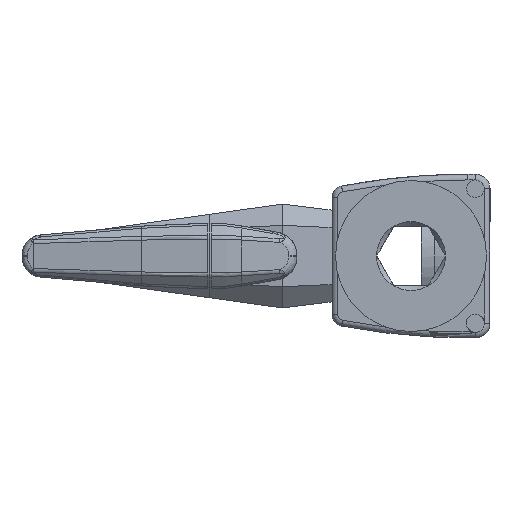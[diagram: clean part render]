
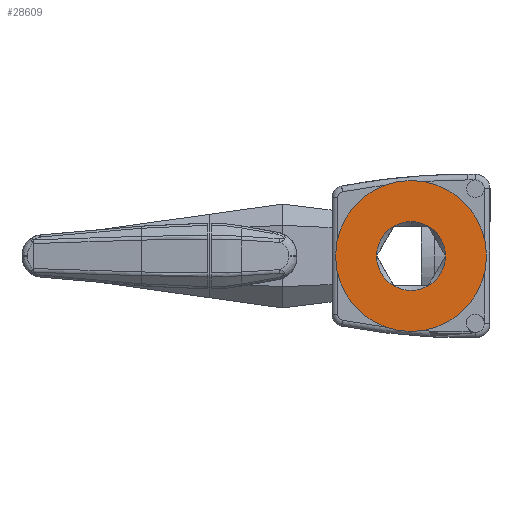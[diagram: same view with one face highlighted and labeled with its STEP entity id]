
A CAD part, left-side view. The second image highlights one B-rep face of the part: STEP entity #28609.
In plain terms, the highlighted planar face has unit normal (-1, 0, 0).
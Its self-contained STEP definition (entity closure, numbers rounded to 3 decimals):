
#621 = DIRECTION ( 'NONE',  ( -1., 0., 0. ) ) ;
#836 = CARTESIAN_POINT ( 'NONE',  ( -77.767, 6.495, 5.956 ) ) ;
#1087 = AXIS2_PLACEMENT_3D ( 'NONE', #26470, #57893, #30940 ) ;
#3408 = CARTESIAN_POINT ( 'NONE',  ( -77.767, 6.495, 5.956 ) ) ;
#4367 = DIRECTION ( 'NONE',  ( -1., 0., 0. ) ) ;
#5326 = DIRECTION ( 'NONE',  ( 0., 0., -1. ) ) ;
#5564 = PLANE ( 'NONE',  #47253 ) ;
#6438 = EDGE_CURVE ( 'NONE', #12897, #48679, #34957, .T. ) ;
#7498 = AXIS2_PLACEMENT_3D ( 'NONE', #836, #32300, #5326 ) ;
#7963 = DIRECTION ( 'NONE',  ( 0., 0., 1. ) ) ;
#8056 = CIRCLE ( 'NONE', #32089, 5.889 ) ;
#8795 = DIRECTION ( 'NONE',  ( -1., 0., 0. ) ) ;
#9505 = CARTESIAN_POINT ( 'NONE',  ( -77.767, 6.495, 5.956 ) ) ;
#9879 = EDGE_CURVE ( 'NONE', #48679, #37748, #8056, .T. ) ;
#10548 = ORIENTED_EDGE ( 'NONE', *, *, #9879, .F. ) ;
#10823 = EDGE_CURVE ( 'NONE', #30576, #17821, #55742, .T. ) ;
#10873 = AXIS2_PLACEMENT_3D ( 'NONE', #27587, #621, #32086 ) ;
#11668 = CIRCLE ( 'NONE', #1087, 5.889 ) ;
#12394 = CIRCLE ( 'NONE', #40187, 5.889 ) ;
#12897 = VERTEX_POINT ( 'NONE', #38668 ) ;
#13133 = DIRECTION ( 'NONE',  ( -1., 0., 0. ) ) ;
#14055 = DIRECTION ( 'NONE',  ( 0., 0., 1. ) ) ;
#14072 = CIRCLE ( 'NONE', #7498, 12.9 ) ;
#14671 = CARTESIAN_POINT ( 'NONE',  ( -77.767, 9.439, 11.056 ) ) ;
#17821 = VERTEX_POINT ( 'NONE', #14671 ) ;
#18101 = DIRECTION ( 'NONE',  ( 1., 0., 0. ) ) ;
#18523 = ORIENTED_EDGE ( 'NONE', *, *, #43294, .F. ) ;
#20516 = EDGE_CURVE ( 'NONE', #51741, #12897, #11668, .T. ) ;
#20701 = ORIENTED_EDGE ( 'NONE', *, *, #47803, .F. ) ;
#21032 = VERTEX_POINT ( 'NONE', #44241 ) ;
#21445 = ORIENTED_EDGE ( 'NONE', *, *, #6438, .F. ) ;
#22656 = CARTESIAN_POINT ( 'NONE',  ( -77.767, 6.495, 11.845 ) ) ;
#23032 = AXIS2_PLACEMENT_3D ( 'NONE', #35736, #8795, #40242 ) ;
#23338 = EDGE_LOOP ( 'NONE', ( #20701, #26989, #34516, #10548, #21445, #34559, #18523 ) ) ;
#23758 = CARTESIAN_POINT ( 'NONE',  ( -77.767, 19.395, 5.956 ) ) ;
#24131 = EDGE_LOOP ( 'NONE', ( #42081, #43861 ) ) ;
#24133 = EDGE_CURVE ( 'NONE', #52453, #21032, #58379, .T. ) ;
#24170 = CARTESIAN_POINT ( 'NONE',  ( -77.767, 3.551, 11.056 ) ) ;
#24289 = AXIS2_PLACEMENT_3D ( 'NONE', #3408, #34888, #7963 ) ;
#26470 = CARTESIAN_POINT ( 'NONE',  ( -77.767, 6.495, 5.956 ) ) ;
#26989 = ORIENTED_EDGE ( 'NONE', *, *, #10823, .F. ) ;
#27587 = CARTESIAN_POINT ( 'NONE',  ( -77.767, 6.495, 5.956 ) ) ;
#27951 = CARTESIAN_POINT ( 'NONE',  ( -77.767, 12.384, 5.956 ) ) ;
#28221 = DIRECTION ( 'NONE',  ( 0., 0., 1. ) ) ;
#28609 = ADVANCED_FACE ( 'NONE', ( #33165, #57108 ), #5564, .T. ) ;
#29768 = CIRCLE ( 'NONE', #24289, 5.889 ) ;
#30576 = VERTEX_POINT ( 'NONE', #22656 ) ;
#30940 = DIRECTION ( 'NONE',  ( 0., 0., 1. ) ) ;
#31361 = CARTESIAN_POINT ( 'NONE',  ( -77.767, 6.495, 5.956 ) ) ;
#32086 = DIRECTION ( 'NONE',  ( 0., 0., 1. ) ) ;
#32089 = AXIS2_PLACEMENT_3D ( 'NONE', #31361, #4367, #35865 ) ;
#32300 = DIRECTION ( 'NONE',  ( 1., 0., 0. ) ) ;
#33165 = FACE_BOUND ( 'NONE', #23338, .T. ) ;
#33706 = EDGE_CURVE ( 'NONE', #21032, #52453, #14072, .T. ) ;
#34509 = EDGE_CURVE ( 'NONE', #37748, #30576, #45524, .T. ) ;
#34516 = ORIENTED_EDGE ( 'NONE', *, *, #34509, .F. ) ;
#34559 = ORIENTED_EDGE ( 'NONE', *, *, #20516, .F. ) ;
#34888 = DIRECTION ( 'NONE',  ( -1., 0., 0. ) ) ;
#34957 = CIRCLE ( 'NONE', #10873, 5.889 ) ;
#35736 = CARTESIAN_POINT ( 'NONE',  ( -77.767, 6.495, 5.956 ) ) ;
#35865 = DIRECTION ( 'NONE',  ( 0., 0., 1. ) ) ;
#36767 = AXIS2_PLACEMENT_3D ( 'NONE', #44989, #18101, #49548 ) ;
#37748 = VERTEX_POINT ( 'NONE', #24170 ) ;
#38668 = CARTESIAN_POINT ( 'NONE',  ( -77.767, 3.551, 0.856 ) ) ;
#39690 = CARTESIAN_POINT ( 'NONE',  ( -77.767, 0.606, 5.956 ) ) ;
#40036 = CARTESIAN_POINT ( 'NONE',  ( -77.767, 6.495, 5.956 ) ) ;
#40187 = AXIS2_PLACEMENT_3D ( 'NONE', #9505, #40956, #14055 ) ;
#40242 = DIRECTION ( 'NONE',  ( 0., 0., 1. ) ) ;
#40956 = DIRECTION ( 'NONE',  ( -1., 0., 0. ) ) ;
#42080 = CARTESIAN_POINT ( 'NONE',  ( -77.767, 9.439, 0.856 ) ) ;
#42081 = ORIENTED_EDGE ( 'NONE', *, *, #24133, .F. ) ;
#43294 = EDGE_CURVE ( 'NONE', #45258, #51741, #29768, .T. ) ;
#43861 = ORIENTED_EDGE ( 'NONE', *, *, #33706, .F. ) ;
#44241 = CARTESIAN_POINT ( 'NONE',  ( -77.767, 6.495, 18.856 ) ) ;
#44567 = DIRECTION ( 'NONE',  ( 0., 0., 1. ) ) ;
#44989 = CARTESIAN_POINT ( 'NONE',  ( -77.767, 6.495, 5.956 ) ) ;
#45258 = VERTEX_POINT ( 'NONE', #27951 ) ;
#45524 = CIRCLE ( 'NONE', #23032, 5.889 ) ;
#47253 = AXIS2_PLACEMENT_3D ( 'NONE', #23758, #55190, #28221 ) ;
#47803 = EDGE_CURVE ( 'NONE', #17821, #45258, #12394, .T. ) ;
#48679 = VERTEX_POINT ( 'NONE', #39690 ) ;
#49548 = DIRECTION ( 'NONE',  ( 0., 0., -1. ) ) ;
#51374 = AXIS2_PLACEMENT_3D ( 'NONE', #40036, #13133, #44567 ) ;
#51741 = VERTEX_POINT ( 'NONE', #42080 ) ;
#52453 = VERTEX_POINT ( 'NONE', #55777 ) ;
#55190 = DIRECTION ( 'NONE',  ( -1., 0., 0. ) ) ;
#55742 = CIRCLE ( 'NONE', #51374, 5.889 ) ;
#55777 = CARTESIAN_POINT ( 'NONE',  ( -77.767, 6.495, -6.944 ) ) ;
#57108 = FACE_OUTER_BOUND ( 'NONE', #24131, .T. ) ;
#57893 = DIRECTION ( 'NONE',  ( -1., 0., 0. ) ) ;
#58379 = CIRCLE ( 'NONE', #36767, 12.9 ) ;
